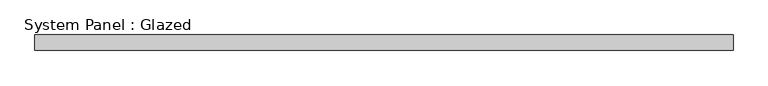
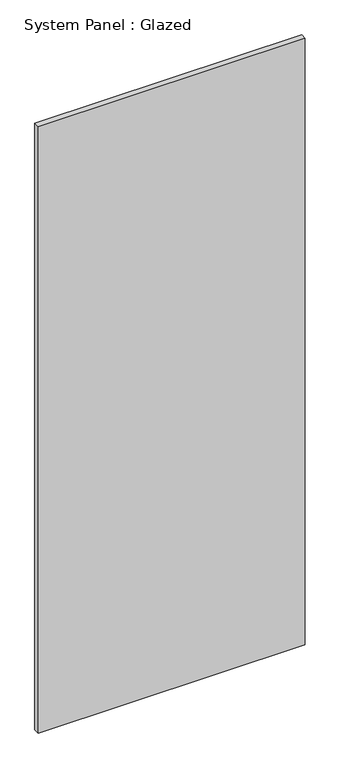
"""IFC4 building model written with IfcOpenShell, lengths in millimetres: plate geometry, System Panel : Glazed."""

from ifc_helpers import new_model, si_unit, origin, origin_with_axes, place, context, project, spatial, polyline, outline, extrude, source, transform, mapped, element, save


def system_panel_glazed_3679fc01(model_context):
    return source(origin(), model_context, "Body", "SweptSolid", [
        extrude(outline(polyline([(562.4999999, 24.5), (-562.4999999, 24.5), (-562.4999999, 49.5), (562.4999999, 49.5), (562.4999999, 24.5)])), origin_with_axes(), (0.0, 0.0, 1.0), 2700.0),
    ])


if __name__ == "__main__":
    model = new_model("IFC4")
    model_context = context("Model", 3, world=origin())
    ifc_project = project(units=[si_unit("LENGTHUNIT", "METRE", prefix="MILLI")], contexts=[model_context])
    site = spatial("IfcSite", under=ifc_project)
    building = spatial("IfcBuilding", under=site)
    placement = place(None, origin())
    system_panel_glazed_shape = system_panel_glazed_3679fc01(model_context)
    element("IfcPlate", 1, ObjectType="System Panel : Glazed", at=placement, inside=building, context=model_context, shape_type="MappedRepresentation", body=[
        mapped(system_panel_glazed_shape, transform((0.0, 0.0, 0.0), x_axis=(1.0, 0.0, 0.0), y_axis=(0.0, 1.0, 0.0), z_axis=(0.0, 0.0, 1.0))),
    ])
    save(model, "model.ifc")
